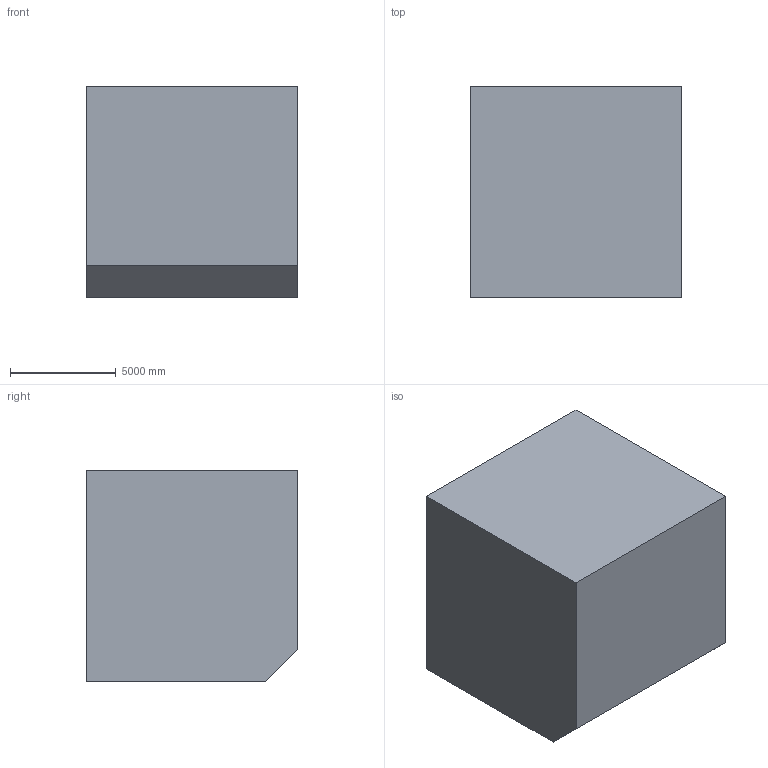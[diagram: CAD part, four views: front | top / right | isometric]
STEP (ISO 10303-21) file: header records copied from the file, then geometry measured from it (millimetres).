
FILE_DESCRIPTION (( 'STEP AP203' ), '1' );
FILE_NAME ('100.STEP', '2022-07-28T13:36:54', ( 'user' ), ( '' ), 'SwSTEP 2.0', 'SolidWorks 2021', '' );
FILE_SCHEMA (( 'CONFIG_CONTROL_DESIGN' ));
Length unit declared in the file: centimetre
Products named in the file (1): 100
Bounding box: 10000 x 10000 x 10000 mm (x, y, z)
Volume: 972077895422.4 mm3; surface area: 593403073 mm2
Topology: 1 solids, 1 shells, 11 faces, 27 edges, 18 vertices
Faces by surface type: plane 9, cylinder 2
Entity records: 402 total; most frequent: CARTESIAN_POINT 57, DIRECTION 55, ORIENTED_EDGE 54, EDGE_CURVE 27, LINE 23, VECTOR 23, VERTEX_POINT 18, AXIS2_PLACEMENT_3D 16
